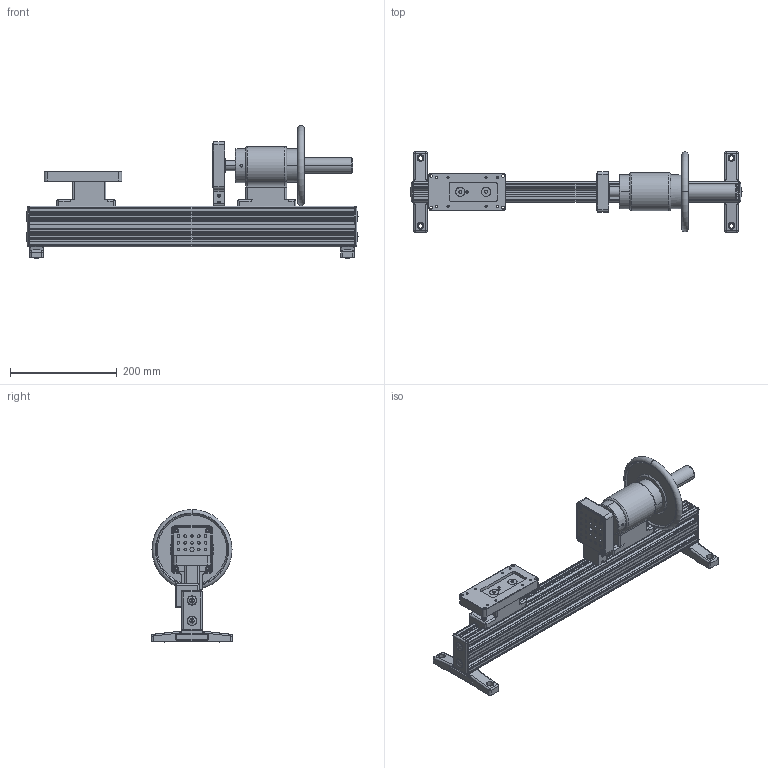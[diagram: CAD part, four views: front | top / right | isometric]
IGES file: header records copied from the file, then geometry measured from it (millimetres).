
Global section: file name: No Iges File Name specified; native system: Autodesk Inventor 2010; preprocessor: AutoDesk Inventor Iges Exporter R2010; author: mlampen; date: 20170621.150210; units: inch
Bounding box: 621.18 x 151.13 x 248.67 mm (x, y, z)
Volume: 2386708.2 mm3; surface area: 638430.7 mm2
Topology: 6 solids, 11 shells, 1815 faces, 4790 edges, 3043 vertices
Faces by surface type: plane 676, revolution 503, cylinder 360, cone 171, sphere 44, bspline 39, torus 22
Full cylindrical faces by diameter (mm): 4.7 x48, 6.35 x28
